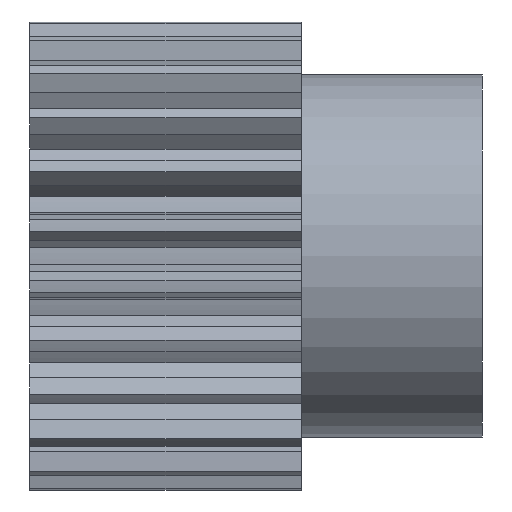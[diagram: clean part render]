
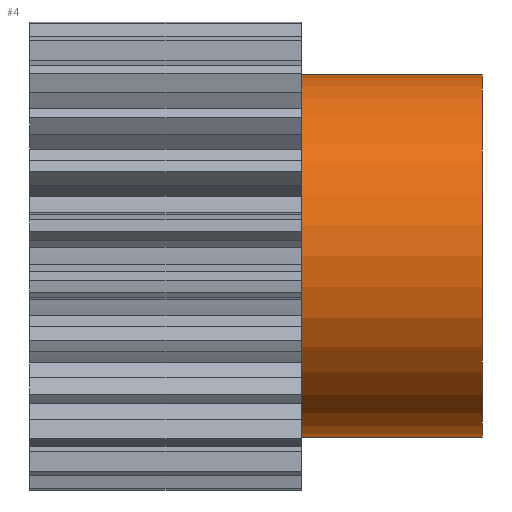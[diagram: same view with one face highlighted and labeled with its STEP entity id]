
A CAD part, front view. The second image highlights one B-rep face of the part: STEP entity #4.
In plain terms, the highlighted cylindrical face has radius 10 mm (diameter 20 mm), a partial arc.
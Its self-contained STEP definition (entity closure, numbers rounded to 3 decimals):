
#1 = ORIENTED_EDGE ( 'NONE', *, *, #577, .T. ) ;
#4 = ADVANCED_FACE ( 'NONE', ( #938 ), #935, .T. ) ;
#9 = ORIENTED_EDGE ( 'NONE', *, *, #119, .T. ) ;
#119 = EDGE_CURVE ( 'NONE', #561, #570, #1069, .T. ) ;
#172 = EDGE_CURVE ( 'NONE', #564, #573, #1183, .T. ) ;
#366 = EDGE_LOOP ( 'NONE', ( #4780, #369, #1, #9 ) ) ;
#369 = ORIENTED_EDGE ( 'NONE', *, *, #172, .T. ) ;
#561 = VERTEX_POINT ( 'NONE', #1758 ) ;
#564 = VERTEX_POINT ( 'NONE', #1760 ) ;
#570 = VERTEX_POINT ( 'NONE', #1806 ) ;
#573 = VERTEX_POINT ( 'NONE', #1751 ) ;
#577 = EDGE_CURVE ( 'NONE', #573, #561, #1799, .T. ) ;
#588 = EDGE_CURVE ( 'NONE', #564, #570, #1800, .T. ) ;
#923 = DIRECTION ( 'NONE',  ( 0., 0., 1. ) ) ;
#924 = DIRECTION ( 'NONE',  ( -1., 0., 0. ) ) ;
#925 = CARTESIAN_POINT ( 'NONE',  ( 7.5, 0., 0. ) ) ;
#934 = AXIS2_PLACEMENT_3D ( 'NONE', #925, #924, #923 ) ;
#935 = CYLINDRICAL_SURFACE ( 'NONE', #934, 10. ) ;
#938 = FACE_OUTER_BOUND ( 'NONE', #366, .T. ) ;
#1069 = CIRCLE ( 'NONE', #1107, 10. ) ;
#1098 = DIRECTION ( 'NONE',  ( 0., 0., 1. ) ) ;
#1099 = DIRECTION ( 'NONE',  ( 1., 0., 0. ) ) ;
#1107 = AXIS2_PLACEMENT_3D ( 'NONE', #1122, #1099, #1098 ) ;
#1122 = CARTESIAN_POINT ( 'NONE',  ( 7.5, 0., 0. ) ) ;
#1183 = CIRCLE ( 'NONE', #1244, 10. ) ;
#1241 = DIRECTION ( 'NONE',  ( 0., 0., 1. ) ) ;
#1242 = DIRECTION ( 'NONE',  ( -1., 0., 0. ) ) ;
#1243 = CARTESIAN_POINT ( 'NONE',  ( 17.5, 0., 0. ) ) ;
#1244 = AXIS2_PLACEMENT_3D ( 'NONE', #1243, #1242, #1241 ) ;
#1751 = CARTESIAN_POINT ( 'NONE',  ( 17.5, 0., 10. ) ) ;
#1758 = CARTESIAN_POINT ( 'NONE',  ( 7.5, 0., 10. ) ) ;
#1760 = CARTESIAN_POINT ( 'NONE',  ( 17.5, 0., -10. ) ) ;
#1784 = CARTESIAN_POINT ( 'NONE',  ( 7.5, 0., -10. ) ) ;
#1785 = DIRECTION ( 'NONE',  ( -1., 0., 0. ) ) ;
#1786 = VECTOR ( 'NONE', #1785, 1000. ) ;
#1791 = CARTESIAN_POINT ( 'NONE',  ( 7.5, 0., 10. ) ) ;
#1799 = LINE ( 'NONE', #1791, #1786 ) ;
#1800 = LINE ( 'NONE', #1784, #1833 ) ;
#1806 = CARTESIAN_POINT ( 'NONE',  ( 7.5, 0., -10. ) ) ;
#1832 = DIRECTION ( 'NONE',  ( -1., 0., 0. ) ) ;
#1833 = VECTOR ( 'NONE', #1832, 1000. ) ;
#4780 = ORIENTED_EDGE ( 'NONE', *, *, #588, .F. ) ;
